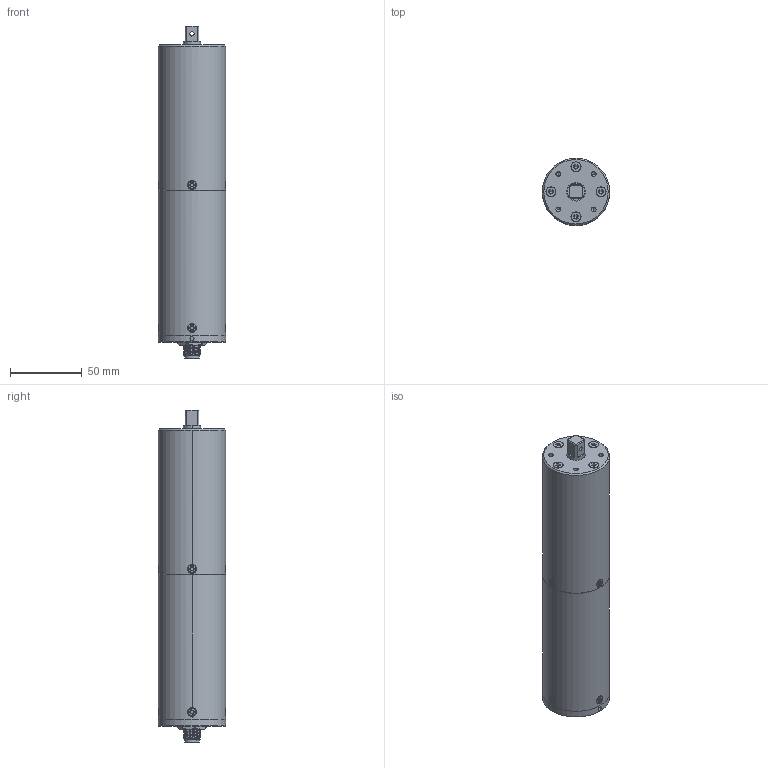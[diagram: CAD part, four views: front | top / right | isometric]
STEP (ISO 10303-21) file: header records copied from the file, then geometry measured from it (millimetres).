
FILE_DESCRIPTION (( 'STEP AP214' ), '1' );
FILE_NAME ('Pluto 20CA.STEP', '2013-05-22T07:56:25', ( '' ), ( '' ), 'SwSTEP 2.0', 'SolidWorks 2013', '' );
FILE_SCHEMA (( 'AUTOMOTIVE_DESIGN' ));
Length unit declared in the file: millimetre
Products named in the file (1): Pluto 20CA
Bounding box: 47 x 47 x 232.1 mm (x, y, z)
Volume: 212643.1 mm3; surface area: 87536.3 mm2
Topology: 18 solids, 18 shells, 655 faces, 1602 edges, 982 vertices
Faces by surface type: cylinder 338, plane 164, cone 90, torus 32, bspline 31
Entity records: 38736 total; most frequent: CARTESIAN_POINT 16135, DIRECTION 3271, ORIENTED_EDGE 3136, EDGE_CURVE 1568, AXIS2_PLACEMENT_3D 1336, VERTEX_POINT 982, EDGE_LOOP 738, CIRCLE 711
